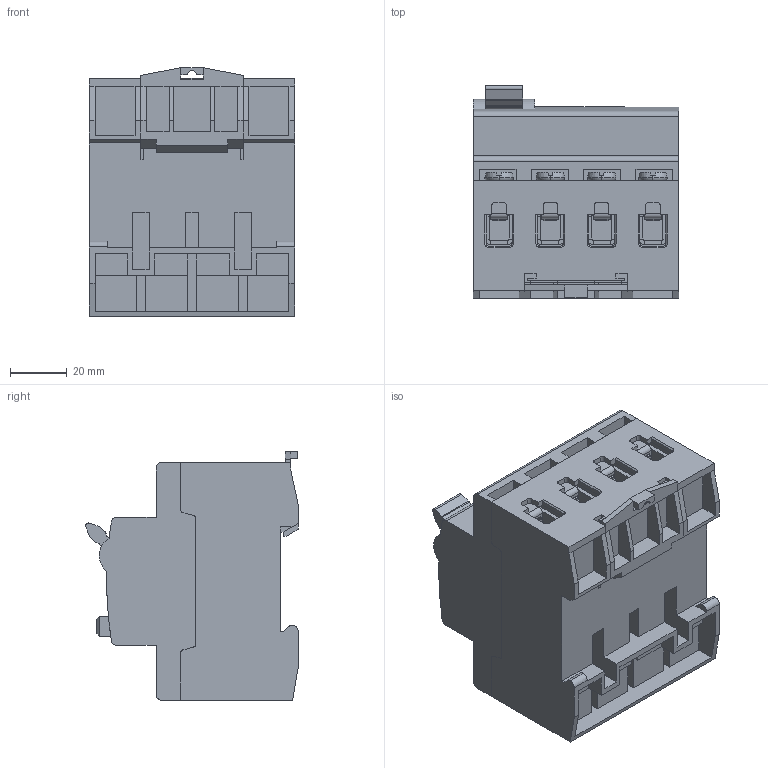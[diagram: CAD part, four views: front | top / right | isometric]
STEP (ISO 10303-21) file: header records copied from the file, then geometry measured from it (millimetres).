
FILE_DESCRIPTION (( 'STEP AP214' ), '1' );
FILE_NAME ('ÂÄ1-63 4ï ýëåêòðîìåõàíèêà.STEP', '2023-02-02T10:25:39', ( '' ), ( '' ), 'SwSTEP 2.0', 'SolidWorks 2018', '' );
FILE_SCHEMA (( 'AUTOMOTIVE_DESIGN' ));
Length unit declared in the file: millimetre
Products named in the file (10): Êíîïêà ÂÄ1-63 ýëåêòðîìåõàíèêà; Êîëîäêà ÃÆÈÊ.745418.015; Çàãëóøêà ÂÄ1-63 ýëåêòðîìåõàíèêà; Êðûøêà 4ï ÂÄ1-63 ýëåêòðîìåõàíèêà; 妈眚 闷仁.758151.057; Ðó÷êà ÂÄ1-63 ýëåêòðîìåõàíèêà; Êîðïóñ 4ï ÂÄ1-63 ýëåêòðîìåõàíèêà; ﾂ鏆鮏 ﾃﾆﾈﾊ.745315.009; ÂÄ1-63 4ï ýëåêòðîìåõàíèêà; Çàùåëêà ÂÄ1-63 ýëåêòðîìåõàíèêà
Assembly tree (33 placements, depth 2):
  ÂÄ1-63 4ï ýëåêòðîìåõàíèêà
    Êîðïóñ 4ï ÂÄ1-63 ýëåêòðîìåõàíèêà
    Êðûøêà 4ï ÂÄ1-63 ýëåêòðîìåõàíèêà
    妈眚 闷仁.758151.057  x8
    Êîëîäêà ÃÆÈÊ.745418.015  x8
    ﾂ鏆鮏 ﾃﾆﾈﾊ.745315.009  x8
    Ðó÷êà ÂÄ1-63 ýëåêòðîìåõàíèêà
    Êíîïêà ÂÄ1-63 ýëåêòðîìåõàíèêà
    Çàãëóøêà ÂÄ1-63 ýëåêòðîìåõàíèêà  x4
    Çàùåëêà ÂÄ1-63 ýëåêòðîìåõàíèêà
Bounding box: 72 x 74.54 x 87.2 mm (x, y, z)
Volume: 283888.3 mm3; surface area: 86920.3 mm2
Topology: 33 solids, 33 shells, 2644 faces, 6966 edges, 4388 vertices
Faces by surface type: plane 1949, cylinder 599, torus 32, sphere 32, cone 16, bspline 16
Entity records: 24587 total; most frequent: CARTESIAN_POINT 4381, ORIENTED_EDGE 4150, DIRECTION 4009, EDGE_CURVE 2075, LINE 1677, VECTOR 1677, VERTEX_POINT 1334, AXIS2_PLACEMENT_3D 1166
